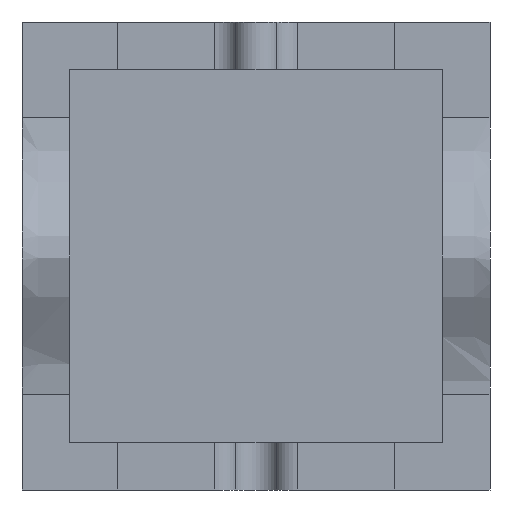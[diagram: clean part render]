
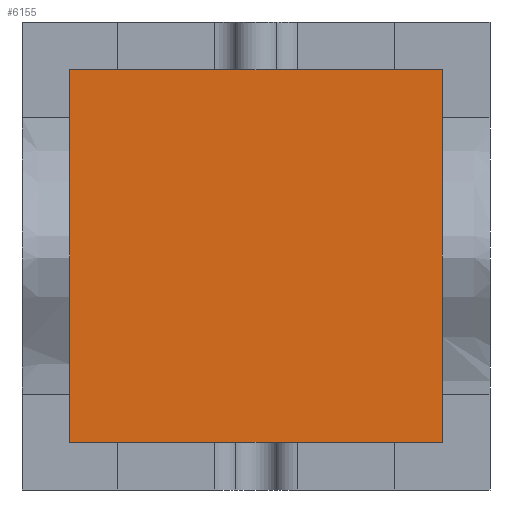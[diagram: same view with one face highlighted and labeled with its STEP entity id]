
A CAD part, front view. The second image highlights one B-rep face of the part: STEP entity #6155.
In plain terms, the highlighted planar face has unit normal (0, -1, 0).
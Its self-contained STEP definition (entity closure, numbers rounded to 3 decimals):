
#6029=CARTESIAN_POINT('Vertex',(-20.,-30.,-20.)) ;
#6034=CARTESIAN_POINT('Line Origine',(-20.,-30.,58.)) ;
#6038=CARTESIAN_POINT('Vertex',(-20.,-30.,136.)) ;
#6065=CARTESIAN_POINT('Line Origine',(58.,-30.,136.)) ;
#6069=CARTESIAN_POINT('Vertex',(136.,-30.,136.)) ;
#6096=CARTESIAN_POINT('Line Origine',(136.,-30.,58.)) ;
#6100=CARTESIAN_POINT('Vertex',(136.,-30.,-20.)) ;
#6127=CARTESIAN_POINT('Line Origine',(58.,-30.,-20.)) ;
#6144=CARTESIAN_POINT('Axis2P3D Location',(0.,-30.,0.)) ;
#6035=DIRECTION('Vector Direction',(0.,0.,-1.)) ;
#6066=DIRECTION('Vector Direction',(1.,0.,0.)) ;
#6097=DIRECTION('Vector Direction',(0.,0.,1.)) ;
#6128=DIRECTION('Vector Direction',(-1.,0.,0.)) ;
#6145=DIRECTION('Axis2P3D Direction',(0.,1.,0.)) ;
#6146=DIRECTION('Axis2P3D XDirection',(-1.,0.,0.)) ;
#6147=AXIS2_PLACEMENT_3D('Plane Axis2P3D',#6144,#6145,#6146) ;
#6150=ORIENTED_EDGE('',*,*,#6131,.F.) ;
#6151=ORIENTED_EDGE('',*,*,#6102,.F.) ;
#6152=ORIENTED_EDGE('',*,*,#6071,.F.) ;
#6153=ORIENTED_EDGE('',*,*,#6040,.F.) ;
#6036=VECTOR('Line Direction',#6035,1.) ;
#6067=VECTOR('Line Direction',#6066,1.) ;
#6098=VECTOR('Line Direction',#6097,1.) ;
#6129=VECTOR('Line Direction',#6128,1.) ;
#6155=ADVANCED_FACE('Cavity-molde',(#6154),#6148,.F.) ;
#6040=EDGE_CURVE('',#6030,#6039,#6037,.F.) ;
#6071=EDGE_CURVE('',#6039,#6070,#6068,.T.) ;
#6102=EDGE_CURVE('',#6070,#6101,#6099,.F.) ;
#6131=EDGE_CURVE('',#6101,#6030,#6130,.T.) ;
#6149=EDGE_LOOP('',(#6150,#6151,#6152,#6153)) ;
#6154=FACE_OUTER_BOUND('',#6149,.T.) ;
#6037=LINE('Line',#6034,#6036) ;
#6068=LINE('Line',#6065,#6067) ;
#6099=LINE('Line',#6096,#6098) ;
#6130=LINE('Line',#6127,#6129) ;
#6148=PLANE('',#6147) ;
#6030=VERTEX_POINT('',#6029) ;
#6039=VERTEX_POINT('',#6038) ;
#6070=VERTEX_POINT('',#6069) ;
#6101=VERTEX_POINT('',#6100) ;
